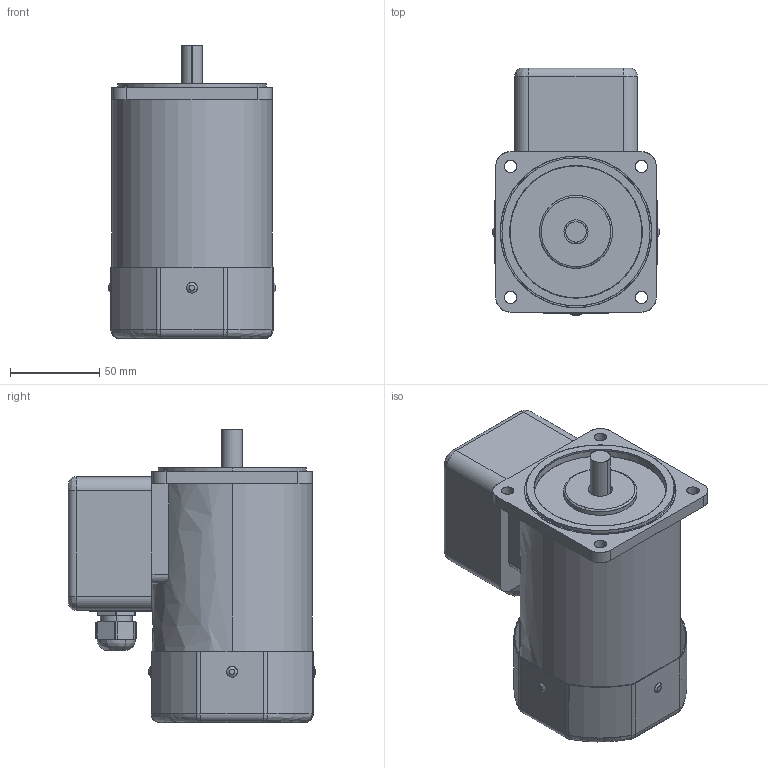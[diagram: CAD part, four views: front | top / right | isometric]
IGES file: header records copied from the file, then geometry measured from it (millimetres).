
Start section: SolidWorks IGES file using analytic representation for surfaces
Bounding box: 94 x 139 x 164.5 mm (x, y, z)
Surface area: 161321.9 mm2 (no closed solid volume)
Topology: 0 solids, 0 shells, 304 faces, 4808 edges, 4792 vertices
Faces by surface type: bspline 168, revolution 136
